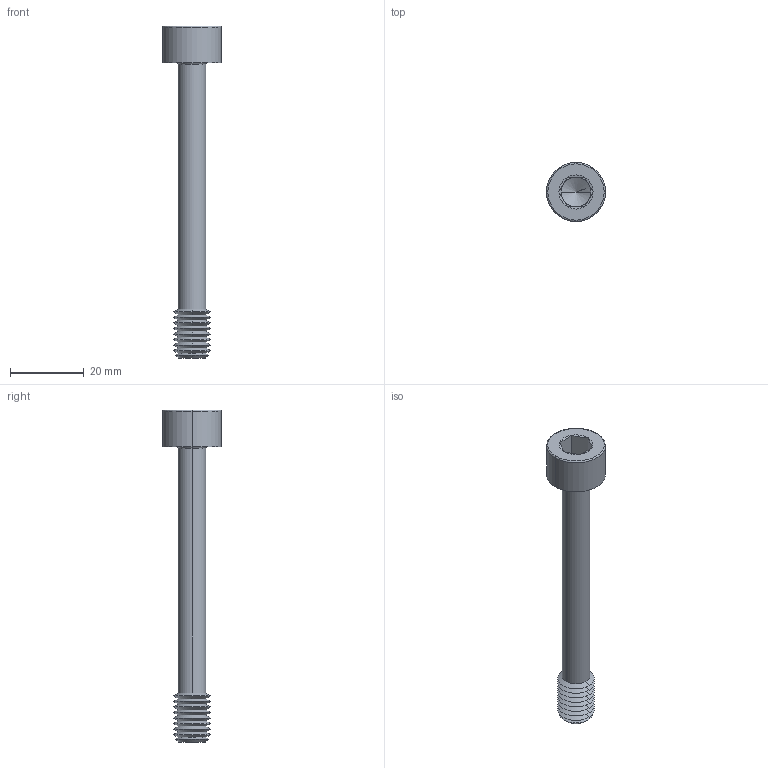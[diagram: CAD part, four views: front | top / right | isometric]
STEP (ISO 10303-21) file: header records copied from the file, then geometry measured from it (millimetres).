
FILE_DESCRIPTION (( 'STEP AP203' ), '1' );
FILE_NAME ('P0154.100-080-BL.step', '2024-06-17T11:35:25', ( '' ), ( '' ), 'SwSTEP 2.0', 'SolidWorks 2019', '' );
FILE_SCHEMA (( 'CONFIG_CONTROL_DESIGN' ));
Length unit declared in the file: millimetre
Products named in the file (1): P0154.100-080-BL
Bounding box: 16 x 16 x 90 mm (x, y, z)
Volume: 5261.1 mm3; surface area: 3399.7 mm2
Topology: 1 solids, 1 shells, 67 faces, 136 edges, 71 vertices
Faces by surface type: cone 44, plane 15, torus 4, cylinder 4
Entity records: 1791 total; most frequent: DIRECTION 332, CARTESIAN_POINT 303, ORIENTED_EDGE 268, AXIS2_PLACEMENT_3D 136, EDGE_CURVE 134, VERTEX_POINT 71, EDGE_LOOP 69, CIRCLE 68
